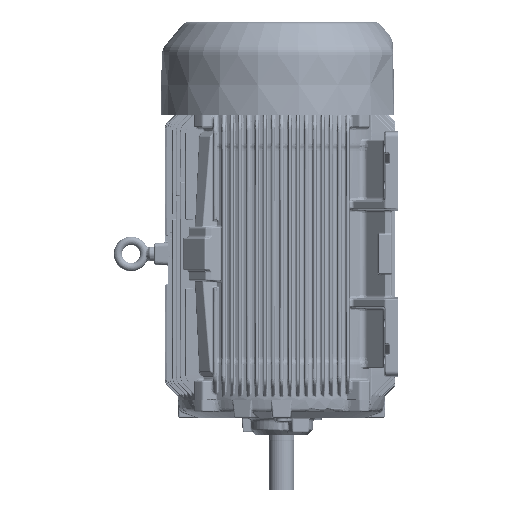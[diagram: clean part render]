
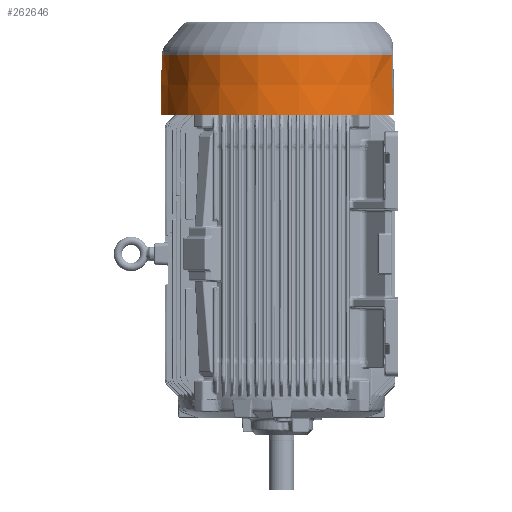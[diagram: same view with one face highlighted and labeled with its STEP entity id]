
A CAD part, left-side view. The second image highlights one B-rep face of the part: STEP entity #262646.
In plain terms, the highlighted conical face has half-angle 1 degrees and reference radius 288.053 mm.
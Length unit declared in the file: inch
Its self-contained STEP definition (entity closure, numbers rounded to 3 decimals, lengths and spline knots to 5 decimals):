
#255697=CARTESIAN_POINT('',(-4.4053,-10.50316,0.));
#255709=CARTESIAN_POINT('',(4.4053,-10.50316,0.));
#255715=CARTESIAN_POINT('',(-4.38861,-10.40404,
-5.60515));
#255716=CARTESIAN_POINT('',(-4.38989,-10.41162,
-5.17622));
#255717=CARTESIAN_POINT('',(-4.3925,-10.42706,
-4.30305));
#255718=CARTESIAN_POINT('',(-4.39649,-10.45079,
-2.96156));
#255719=CARTESIAN_POINT('',(-4.4007,-10.47582,
-1.54612));
#255720=CARTESIAN_POINT('',(-4.40373,-10.49385,
-0.52655));
#255721=CARTESIAN_POINT('',(-4.4053,-10.50316,0.));
#255723=CARTESIAN_POINT('',(-4.38861,-10.40404,
-5.60515));
#255724=CARTESIAN_POINT('',(-4.38884,-10.40394,
-5.60527));
#255725=CARTESIAN_POINT('',(-4.38935,-10.40372,
-5.60548));
#255726=CARTESIAN_POINT('',(-4.39028,-10.40332,
-5.6058));
#255727=CARTESIAN_POINT('',(-4.39142,-10.40283,
-5.60605));
#255728=CARTESIAN_POINT('',(-4.39279,-10.40225,
-5.60622));
#255729=CARTESIAN_POINT('',(-4.3939,-10.40178,
-5.60627));
#255730=CARTESIAN_POINT('',(-4.3945,-10.40153,
-5.60627));
#255732=CARTESIAN_POINT('',(0.,0.,-5.60627));
#255733=DIRECTION('',(0.,0.,-1.));
#255734=DIRECTION('',(-0.389,-0.921,0.));
#255735=AXIS2_PLACEMENT_3D('',#255732,#255733,#255734);
#255737=CARTESIAN_POINT('',(4.38861,-10.40404,
-5.60515));
#255738=CARTESIAN_POINT('',(4.38883,-10.40394,
-5.60528));
#255739=CARTESIAN_POINT('',(4.38935,-10.40372,
-5.60549));
#255740=CARTESIAN_POINT('',(4.39028,-10.40332,
-5.60581));
#255741=CARTESIAN_POINT('',(4.39143,-10.40283,
-5.60606));
#255742=CARTESIAN_POINT('',(4.39278,-10.40226,
-5.60623));
#255743=CARTESIAN_POINT('',(4.39395,-10.40176,
-5.60627));
#255744=CARTESIAN_POINT('',(4.39444,-10.40156,
-5.60627));
#255746=CARTESIAN_POINT('',(4.4053,-10.50316,0.));
#255747=CARTESIAN_POINT('',(4.40402,-10.49554,
-0.43077));
#255748=CARTESIAN_POINT('',(4.40142,-10.48005,
-1.30686));
#255749=CARTESIAN_POINT('',(4.39742,-10.45633,
-2.64795));
#255750=CARTESIAN_POINT('',(4.3932,-10.43125,
-4.0661));
#255751=CARTESIAN_POINT('',(4.39017,-10.4133,
-5.08152));
#255752=CARTESIAN_POINT('',(4.38861,-10.40404,
-5.60515));
#255754=CARTESIAN_POINT('',(0.,0.,0.));
#255755=DIRECTION('',(0.,0.,1.));
#255756=DIRECTION('',(0.387,-0.922,0.));
#255757=AXIS2_PLACEMENT_3D('',#255754,#255755,#255756);
#260451=VERTEX_POINT('',#255697);
#260454=VERTEX_POINT('',#255715);
#260461=VERTEX_POINT('',#255709);
#260462=VERTEX_POINT('',#255752);
#260463=CARTESIAN_POINT('',(-4.3945,-10.40153,
-5.60627));
#260464=CARTESIAN_POINT('',(4.39429,-10.40162,
-5.60627));
#260465=VERTEX_POINT('',#260463);
#260466=VERTEX_POINT('',#260464);
#262631=CARTESIAN_POINT('',(0.,0.,-2.80313));
#262632=DIRECTION('',(0.,0.,1.));
#262633=DIRECTION('',(0.,1.,0.));
#262634=AXIS2_PLACEMENT_3D('',#262631,#262632,#262633);
#262635=CONICAL_SURFACE('',#262634,11.34067,1.);
#262636=ORIENTED_EDGE('',*,*,#262612,.F.);
#262637=ORIENTED_EDGE('',*,*,#262476,.T.);
#262638=ORIENTED_EDGE('',*,*,#262494,.T.);
#262640=ORIENTED_EDGE('',*,*,#262639,.F.);
#262642=ORIENTED_EDGE('',*,*,#262641,.F.);
#262643=ORIENTED_EDGE('',*,*,#262623,.T.);
#262644=EDGE_LOOP('',(#262636,#262637,#262638,#262640,#262642,#262643));
#262645=FACE_OUTER_BOUND('',#262644,.F.);
#262646=ADVANCED_FACE('',(#262645),#262635,.T.);
#255722=B_SPLINE_CURVE_WITH_KNOTS('',3,(#255715,#255716,#255717,#255718,#255719,
#255720,#255721),.UNSPECIFIED.,.F.,.F.,(4,1,1,1,4),(0.,0.25,0.5,0.75,
1.),.UNSPECIFIED.);
#255731=B_SPLINE_CURVE_WITH_KNOTS('',3,(#255723,#255724,#255725,#255726,#255727,
#255728,#255729,#255730),.UNSPECIFIED.,.F.,.F.,(4,1,1,1,1,4),(0.,0.2,0.4,
0.6,0.8,1.),.UNSPECIFIED.);
#255736=CIRCLE('',#255735,11.29174);
#255745=B_SPLINE_CURVE_WITH_KNOTS('',3,(#255737,#255738,#255739,#255740,#255741,
#255742,#255743,#255744),.UNSPECIFIED.,.F.,.F.,(4,1,1,1,1,4),(0.,0.2,0.4,
0.6,0.8,1.),.UNSPECIFIED.);
#255753=B_SPLINE_CURVE_WITH_KNOTS('',3,(#255746,#255747,#255748,#255749,#255750,
#255751,#255752),.UNSPECIFIED.,.F.,.F.,(4,1,1,1,4),(0.,0.25,0.5,0.75,
1.),.UNSPECIFIED.);
#255758=CIRCLE('',#255757,11.3896);
#262476=EDGE_CURVE('',#260454,#260465,#255731,.T.);
#262494=EDGE_CURVE('',#260465,#260466,#255736,.T.);
#262612=EDGE_CURVE('',#260454,#260451,#255722,.T.);
#262623=EDGE_CURVE('',#260461,#260451,#255758,.T.);
#262639=EDGE_CURVE('',#260462,#260466,#255745,.T.);
#262641=EDGE_CURVE('',#260461,#260462,#255753,.T.);
